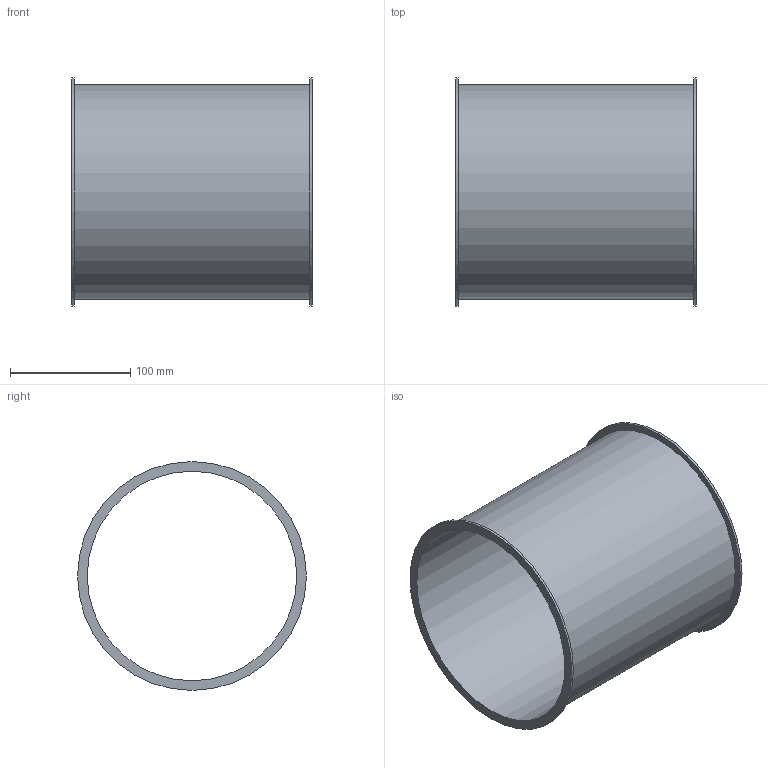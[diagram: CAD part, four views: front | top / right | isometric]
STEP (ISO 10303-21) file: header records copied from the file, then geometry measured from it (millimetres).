
FILE_DESCRIPTION((''),'2;1');
FILE_NAME('U:\Wolfgang\Marcel-3D\fertig\Kapitel 1\1721004.stp','2010-05-31T11:13:35',('TK2'),(''),'Autodesk Inventor 2010','Autodesk Inventor 2010','');
FILE_SCHEMA(('AUTOMOTIVE_DESIGN { 1 0 10303 214 1 1 1 1 }'));
Length unit declared in the file: millimetre
Products named in the file (1): 1721004
Bounding box: 200 x 190 x 190 mm (x, y, z)
Volume: 235041.4 mm3; surface area: 237403.9 mm2
Topology: 1 solids, 1 shells, 8 faces, 12 edges, 8 vertices
Faces by surface type: cylinder 4, plane 4
Full cylindrical faces by diameter (mm): 174 x1, 178 x1, 190 x2
Entity records: 194 total; most frequent: DIRECTION 34, CARTESIAN_POINT 25, AXIS2_PLACEMENT_3D 17, ORIENTED_EDGE 16, EDGE_LOOP 16, VERTEX_POINT 8, CIRCLE 8, EDGE_CURVE 8
